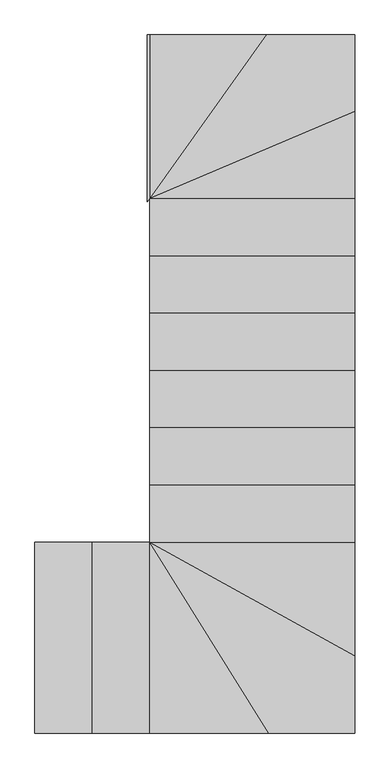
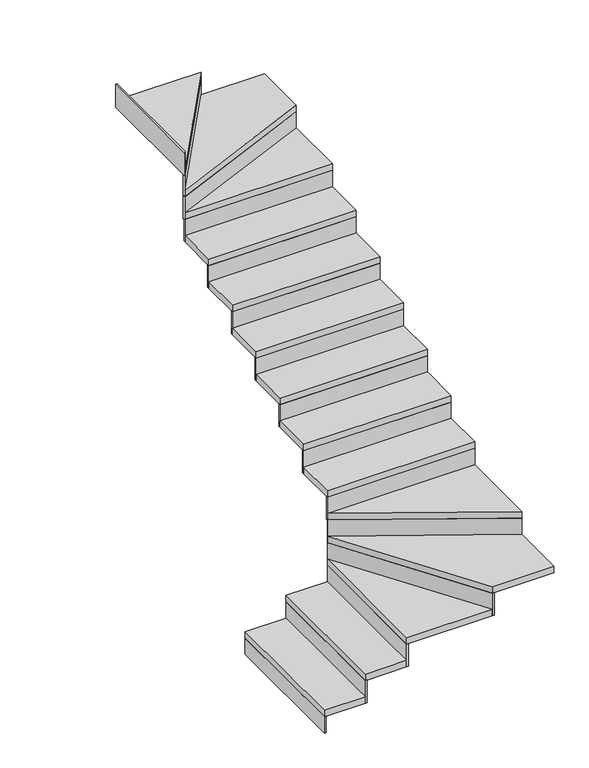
"""IFC4 building model written with IfcOpenShell, lengths in millimetres: stair flight geometry, Huella 50 mm Contrahuella 13 mm."""

from ifc_helpers import new_model, si_unit, frame, origin, place, context, project, spatial, polyline, outline, extrude, source, transform, mapped, element, save


def stair_flight_df50b853(model_context):
    return source(origin(), model_context, "Body", "SweptSolid", [
        extrude(outline(polyline([(-3401.7417154, -529.7257228), (-3414.2417154, -529.7257228), (-3414.2417154, 470.2742772), (-3401.7417154, 470.2742772), (-3401.7417154, -529.7257228)])), frame((0.0, 0.0, 2800.0), z_axis=(0.0, 0.0, 1.0), x_axis=(1.0, 0.0, 0.0)), (0.0, 0.0, 1.0), 125.0),
        extrude(outline(polyline([(-3114.2417154, 470.2742772), (-3114.2417154, -529.7257228), (-3414.2417154, -529.7257228), (-3414.2417154, 470.2742772), (-3114.2417154, 470.2742772)])), frame((0.0, 0.0, 2925.0), z_axis=(0.0, 0.0, 1.0), x_axis=(1.0, 0.0, 0.0)), (0.0, 0.0, 1.0), 50.0),
        extrude(outline(polyline([(-3101.7417154, -529.7257228), (-3114.2417154, -529.7257228), (-3114.2417154, 470.2742772), (-3101.7417154, 470.2742772), (-3101.7417154, -529.7257228)])), frame((0.0, 0.0, 2925.0), z_axis=(0.0, 0.0, 1.0), x_axis=(1.0, 0.0, 0.0)), (0.0, 0.0, 1.0), 175.0),
        extrude(outline(polyline([(-2814.2417154, 470.2742772), (-2814.2417154, -529.7257228), (-3114.2417154, -529.7257228), (-3114.2417154, 470.2742772), (-2814.2417154, 470.2742772)])), frame((0.0, 0.0, 3100.0), z_axis=(0.0, 0.0, 1.0), x_axis=(1.0, 0.0, 0.0)), (0.0, 0.0, 1.0), 50.0),
        extrude(outline(polyline([(-2801.7417154, -529.7257228), (-2814.2417154, -529.7257228), (-2814.2417154, 470.2742772), (-2801.7417154, 450.2700956), (-2801.7417154, -529.7257228)])), frame((0.0, 0.0, 3100.0), z_axis=(0.0, 0.0, 1.0), x_axis=(1.0, 0.0, 0.0)), (0.0, 0.0, 1.0), 175.0),
        extrude(outline(polyline([(-2814.2417154, 470.2742772), (-2189.3723634, -529.7257228), (-2814.2417154, -529.7257228), (-2814.2417154, 470.2742772)])), frame((0.0, 0.0, 3275.0), z_axis=(0.0, 0.0, 1.0), x_axis=(1.0, 0.0, 0.0)), (0.0, 0.0, 1.0), 50.0),
        extrude(outline(polyline([(-2174.6326334, -529.7257228), (-2189.3723634, -529.7257228), (-2814.2417154, 470.2742772), (-2803.6411142, 476.898268), (-2174.6326334, -529.7257228)])), frame((0.0, 0.0, 3275.0), z_axis=(0.0, 0.0, 1.0), x_axis=(1.0, 0.0, 0.0)), (0.0, 0.0, 1.0), 175.0),
        extrude(outline(polyline([(-2814.2417154, 470.2742772), (-1739.2417154, -125.6079531), (-1739.2417154, -529.7257228), (-2189.3723634, -529.7257228), (-2814.2417154, 470.2742772)])), frame((0.0, 0.0, 3450.0), z_axis=(0.0, 0.0, 1.0), x_axis=(1.0, 0.0, 0.0)), (0.0, 0.0, 1.0), 50.0),
        extrude(outline(polyline([(-1739.2417154, 2282.7742772), (-1739.2417154, 2270.2742772), (-2814.2417154, 2270.2742772), (-2814.2417154, 2282.7742772), (-1739.2417154, 2282.7742772)])), frame((0.0, 0.0, 4675.0), z_axis=(0.0, 0.0, 1.0), x_axis=(1.0, 0.0, 0.0)), (0.0, 0.0, 1.0), 175.0),
        extrude(outline(polyline([(-2814.2417154, 2270.2742772), (-1739.2417154, 2726.5847046), (-1739.2417154, 2270.2742772), (-2814.2417154, 2270.2742772)])), frame((0.0, 0.0, 4850.0), z_axis=(0.0, 0.0, 1.0), x_axis=(1.0, 0.0, 0.0)), (0.0, 0.0, 1.0), 50.0),
        extrude(outline(polyline([(-1739.2417154, 2740.1642093), (-1739.2417154, 2726.5847046), (-2814.2417154, 2270.2742772), (-2819.1258545, 2281.7805878), (-1739.2417154, 2740.1642093)])), frame((0.0, 0.0, 4850.0), z_axis=(0.0, 0.0, 1.0), x_axis=(1.0, 0.0, 0.0)), (0.0, 0.0, 1.0), 175.0),
        extrude(outline(polyline([(-2814.2417154, 2270.2742772), (-2204.1541997, 3125.2742772), (-1739.2417154, 3125.2742772), (-1739.2417154, 2726.5847046), (-2814.2417154, 2270.2742772)])), frame((0.0, 0.0, 5025.0), z_axis=(0.0, 0.0, 1.0), x_axis=(1.0, 0.0, 0.0)), (0.0, 0.0, 1.0), 50.0),
        extrude(outline(polyline([(-2826.7417154, 3125.2742772), (-2814.2417154, 3125.2742772), (-2814.2417154, 2270.2742772), (-2826.7417154, 2252.7562986), (-2826.7417154, 3125.2742772)])), frame((0.0, 0.0, 5200.0), z_axis=(0.0, 0.0, 1.0), x_axis=(1.0, 0.0, 0.0)), (0.0, 0.0, 1.0), 175.0),
        extrude(outline(polyline([(-1739.2417154, -111.3160273), (-1739.2417154, -125.6079531), (-2814.2417154, 470.2742772), (-2808.1815951, 481.2070235), (-1739.2417154, -111.3160273)])), frame((0.0, 0.0, 3450.0), z_axis=(0.0, 0.0, 1.0), x_axis=(1.0, 0.0, 0.0)), (0.0, 0.0, 1.0), 175.0),
        extrude(outline(polyline([(-2814.2417154, 470.2742772), (-1739.2417154, 470.2742772), (-1739.2417154, -125.6079531), (-2814.2417154, 470.2742772)])), frame((0.0, 0.0, 3625.0), z_axis=(0.0, 0.0, 1.0), x_axis=(1.0, 0.0, 0.0)), (0.0, 0.0, 1.0), 50.0),
        extrude(outline(polyline([(-1739.2417154, 482.7742772), (-1739.2417154, 470.2742772), (-2814.2417154, 470.2742772), (-2814.2417154, 482.7742772), (-1739.2417154, 482.7742772)])), frame((0.0, 0.0, 3625.0), z_axis=(0.0, 0.0, 1.0), x_axis=(1.0, 0.0, 0.0)), (0.0, 0.0, 1.0), 175.0),
        extrude(outline(polyline([(-2814.2417154, 770.2742772), (-1739.2417154, 770.2742772), (-1739.2417154, 470.2742772), (-2814.2417154, 470.2742772), (-2814.2417154, 770.2742772)])), frame((0.0, 0.0, 3800.0), z_axis=(0.0, 0.0, 1.0), x_axis=(1.0, 0.0, 0.0)), (0.0, 0.0, 1.0), 50.0),
        extrude(outline(polyline([(-1739.2417154, 782.7742772), (-1739.2417154, 770.2742772), (-2814.2417154, 770.2742772), (-2814.2417154, 782.7742772), (-1739.2417154, 782.7742772)])), frame((0.0, 0.0, 3800.0), z_axis=(0.0, 0.0, 1.0), x_axis=(1.0, 0.0, 0.0)), (0.0, 0.0, 1.0), 175.0),
        extrude(outline(polyline([(-2814.2417154, 1070.2742772), (-1739.2417154, 1070.2742772), (-1739.2417154, 770.2742772), (-2814.2417154, 770.2742772), (-2814.2417154, 1070.2742772)])), frame((0.0, 0.0, 3975.0), z_axis=(0.0, 0.0, 1.0), x_axis=(1.0, 0.0, 0.0)), (0.0, 0.0, 1.0), 50.0),
        extrude(outline(polyline([(-1739.2417154, 1082.7742772), (-1739.2417154, 1070.2742772), (-2814.2417154, 1070.2742772), (-2814.2417154, 1082.7742772), (-1739.2417154, 1082.7742772)])), frame((0.0, 0.0, 3975.0), z_axis=(0.0, 0.0, 1.0), x_axis=(1.0, 0.0, 0.0)), (0.0, 0.0, 1.0), 175.0),
        extrude(outline(polyline([(-2814.2417154, 1370.2742772), (-1739.2417154, 1370.2742772), (-1739.2417154, 1070.2742772), (-2814.2417154, 1070.2742772), (-2814.2417154, 1370.2742772)])), frame((0.0, 0.0, 4150.0), z_axis=(0.0, 0.0, 1.0), x_axis=(1.0, 0.0, 0.0)), (0.0, 0.0, 1.0), 50.0),
        extrude(outline(polyline([(-1739.2417154, 1382.7742772), (-1739.2417154, 1370.2742772), (-2814.2417154, 1370.2742772), (-2814.2417154, 1382.7742772), (-1739.2417154, 1382.7742772)])), frame((0.0, 0.0, 4150.0), z_axis=(0.0, 0.0, 1.0), x_axis=(1.0, 0.0, 0.0)), (0.0, 0.0, 1.0), 175.0),
        extrude(outline(polyline([(-2814.2417154, 1670.2742772), (-1739.2417154, 1670.2742772), (-1739.2417154, 1370.2742772), (-2814.2417154, 1370.2742772), (-2814.2417154, 1670.2742772)])), frame((0.0, 0.0, 4325.0), z_axis=(0.0, 0.0, 1.0), x_axis=(1.0, 0.0, 0.0)), (0.0, 0.0, 1.0), 50.0),
        extrude(outline(polyline([(-1739.2417154, 1682.7742772), (-1739.2417154, 1670.2742772), (-2814.2417154, 1670.2742772), (-2814.2417154, 1682.7742772), (-1739.2417154, 1682.7742772)])), frame((0.0, 0.0, 4325.0), z_axis=(0.0, 0.0, 1.0), x_axis=(1.0, 0.0, 0.0)), (0.0, 0.0, 1.0), 175.0),
        extrude(outline(polyline([(-2814.2417154, 1970.2742772), (-1739.2417154, 1970.2742772), (-1739.2417154, 1670.2742772), (-2814.2417154, 1670.2742772), (-2814.2417154, 1970.2742772)])), frame((0.0, 0.0, 4500.0), z_axis=(0.0, 0.0, 1.0), x_axis=(1.0, 0.0, 0.0)), (0.0, 0.0, 1.0), 50.0),
        extrude(outline(polyline([(-1739.2417154, 1982.7742772), (-1739.2417154, 1970.2742772), (-2814.2417154, 1970.2742772), (-2814.2417154, 1982.7742772), (-1739.2417154, 1982.7742772)])), frame((0.0, 0.0, 4500.0), z_axis=(0.0, 0.0, 1.0), x_axis=(1.0, 0.0, 0.0)), (0.0, 0.0, 1.0), 175.0),
        extrude(outline(polyline([(-2814.2417154, 2270.2742772), (-1739.2417154, 2270.2742772), (-1739.2417154, 1970.2742772), (-2814.2417154, 1970.2742772), (-2814.2417154, 2270.2742772)])), frame((0.0, 0.0, 4675.0), z_axis=(0.0, 0.0, 1.0), x_axis=(1.0, 0.0, 0.0)), (0.0, 0.0, 1.0), 50.0),
        extrude(outline(polyline([(-2219.5101706, 3125.2742772), (-2204.1541997, 3125.2742772), (-2814.2417154, 2270.2742772), (-2814.2417154, 2291.7947226), (-2219.5101706, 3125.2742772)])), frame((0.0, 0.0, 5025.0), z_axis=(0.0, 0.0, 1.0), x_axis=(1.0, 0.0, 0.0)), (0.0, 0.0, 1.0), 175.0),
        extrude(outline(polyline([(-2814.2417154, 2270.2742772), (-2814.2417154, 3125.2742772), (-2204.1541997, 3125.2742772), (-2814.2417154, 2270.2742772)])), frame((0.0, 0.0, 5200.0), z_axis=(0.0, 0.0, 1.0), x_axis=(1.0, 0.0, 0.0)), (0.0, 0.0, 1.0), 50.0),
    ])


if __name__ == "__main__":
    model = new_model("IFC4")
    model_context = context("Model", 3, world=origin())
    ifc_project = project(units=[si_unit("LENGTHUNIT", "METRE", prefix="MILLI")], contexts=[model_context])
    site = spatial("IfcSite", under=ifc_project)
    building = spatial("IfcBuilding", under=site)
    placement = place(None, origin())
    stair_flight_shape = stair_flight_df50b853(model_context)
    element("IfcStairFlight", 1, ObjectType="Huella 50 mm Contrahuella 13 mm", at=placement, inside=building, context=model_context, shape_type="MappedRepresentation", body=[
        mapped(stair_flight_shape, transform((0.0, 0.0, 0.0), x_axis=(1.0, 0.0, 0.0), y_axis=(0.0, 1.0, 0.0), z_axis=(0.0, 0.0, 1.0))),
    ])
    save(model, "model.ifc")
